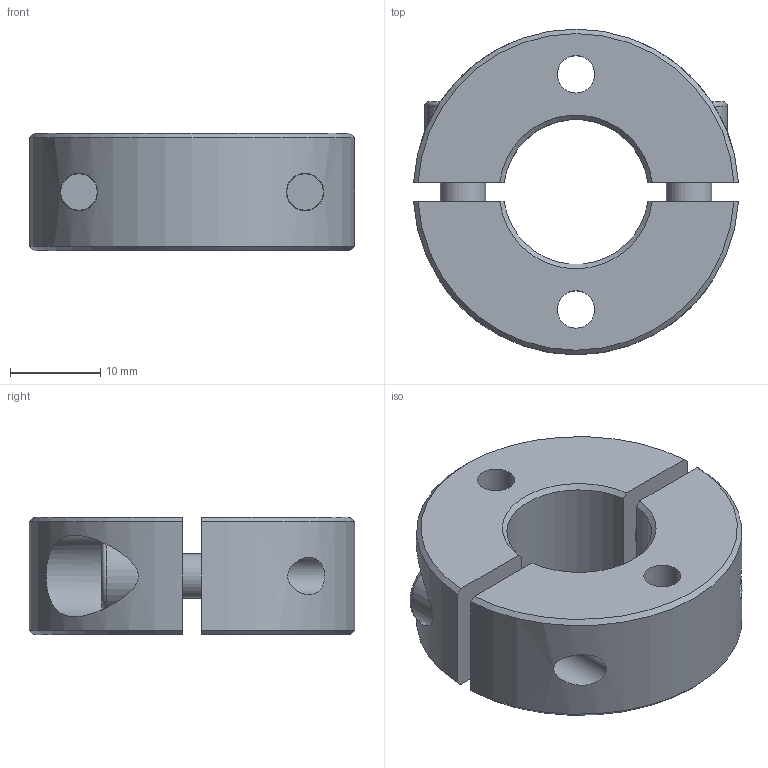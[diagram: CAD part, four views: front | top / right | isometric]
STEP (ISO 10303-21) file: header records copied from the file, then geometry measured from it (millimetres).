
FILE_DESCRIPTION( ( 'STEP AP203' ), '1' );
FILE_NAME( 'C:/Temp/Ganter_Step_05_03_2020/data/3_2/gn7072_2/Split Stainless Steel-Set collar GN 7072.2-36-B16-NI-C.stp', '2020-03-13T05:41:05', ( 'License CC BY-ND 4.0' ), ( 'CADENAS' ), ' ', 'PARTsolutions', ' ' );
FILE_SCHEMA( ( 'CONFIG_CONTROL_DESIGN' ) );
Length unit declared in the file: millimetre
Products named in the file (1): _Split Stainless Steel-Set collar GN 7072.2-36-B16-NI-C
Bounding box: 35.94 x 36 x 13 mm (x, y, z)
Volume: 9105 mm3; surface area: 5337.5 mm2
Topology: 1 solids, 1 shells, 58 faces, 136 edges, 92 vertices
Faces by surface type: plane 30, cylinder 16, cone 10, torus 2
Full cylindrical faces by diameter (mm): 4.134 x4, 5 x2, 5.4 x2, 8.5 x2, 9 x2
Entity records: 1833 total; most frequent: CARTESIAN_POINT 552, DIRECTION 250, ORIENTED_EDGE 224, EDGE_CURVE 112, AXIS2_PLACEMENT_3D 99, EDGE_LOOP 92, VERTEX_POINT 84, FACE_OUTER_BOUND 72
